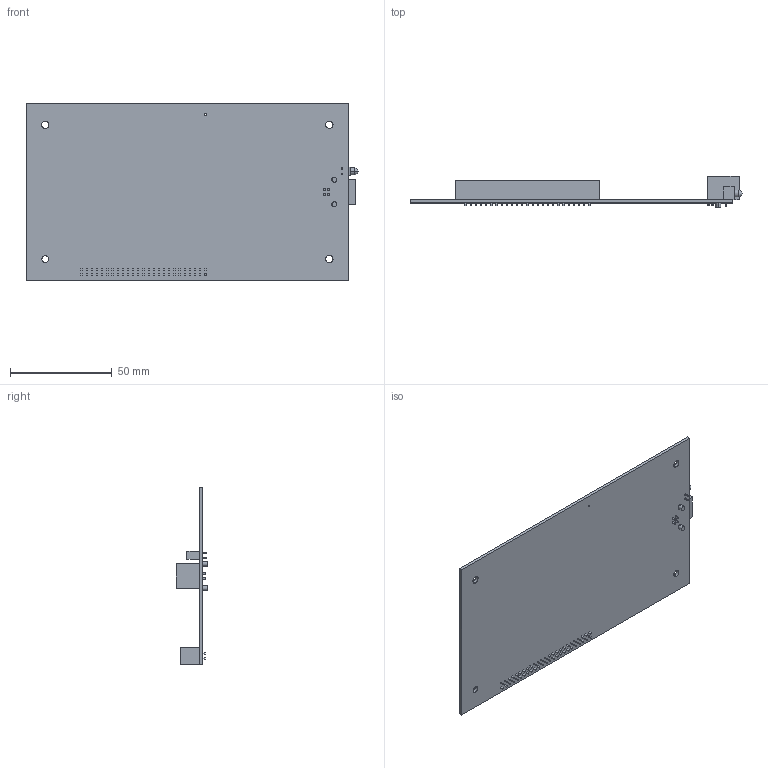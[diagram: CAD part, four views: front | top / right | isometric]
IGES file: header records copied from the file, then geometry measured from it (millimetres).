
Start section:  PTC IGES file: cu_usb_oem_6211.igs
Global section: file name: cu_usb_oem_6211.igs; native system: Pro/ENGINEER by Parametric Technology Corporation; preprocessor: 2006080; author: jpearson; organization: Unknown; date: 070829.103535; units: inch
Bounding box: 163.35 x 15.42 x 87.41 mm (x, y, z)
Surface area: 33391.3 mm2 (no closed solid volume)
Topology: 0 solids, 0 shells, 618 faces, 2990 edges, 2988 vertices
Faces by surface type: bspline 568, revolution 50
